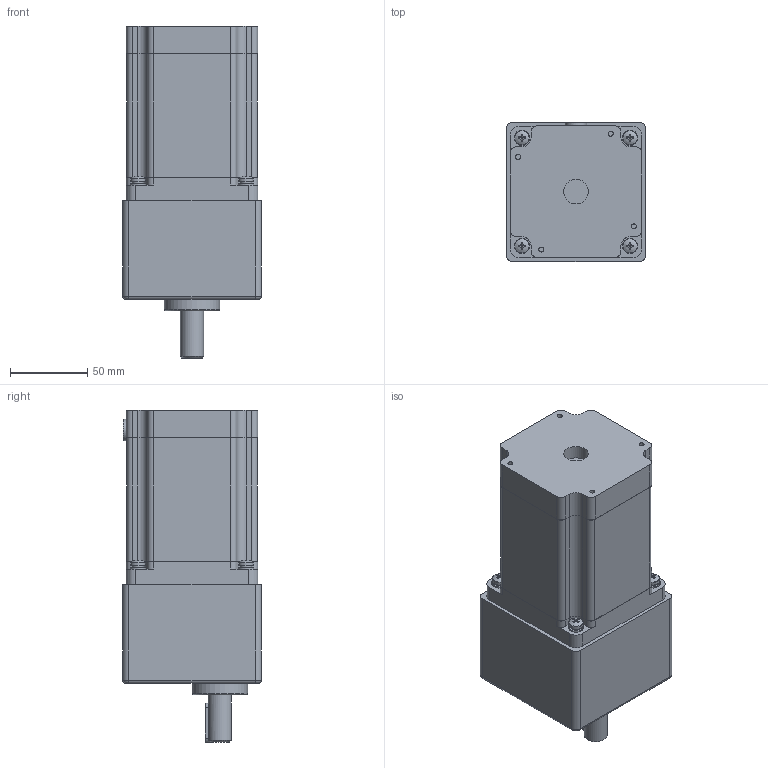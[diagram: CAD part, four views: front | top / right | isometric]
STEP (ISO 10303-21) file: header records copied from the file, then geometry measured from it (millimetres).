
FILE_DESCRIPTION(('STEP AP214'), '1');
FILE_NAME('Äâèãàòåëü øàãîâûé ñ ðåäóêòîðîì PL86GH113-10D14', '', ('UNSPECIFIED'), ('UNSPECIFIED'), 'C3D Converter', 'C3D Toolkit', '');
FILE_SCHEMA(('AUTOMOTIVE_DESIGN { 1 0 10303 214 3 1 1}'));
Length unit declared in the file: millimetre
Bounding box: 90 x 90 x 215 mm (x, y, z)
Volume: 1268282.7 mm3; surface area: 83579.7 mm2
Topology: 14 solids, 14 shells, 944 faces, 2534 edges, 1679 vertices
Faces by surface type: plane 412, cylinder 400, extrusion 74, bspline 32, torus 13, cone 9, sphere 4
Full cylindrical faces by diameter (mm): 3.242 x4, 4.917 x4, 5 x5, 5.5 x4, 6.5 x4, 9.5 x4, 10 x4, 14 x1, 15 x1, 16 x1, 36 x1
Entity records: 38353 total; most frequent: CARTESIAN_POINT 6882, ORIENTED_EDGE 4952, DIRECTION 4901, EDGE_CURVE 2476, AXIS2_PLACEMENT_3D 1711, VERTEX_POINT 1675, VECTOR 1479, LINE 1405
